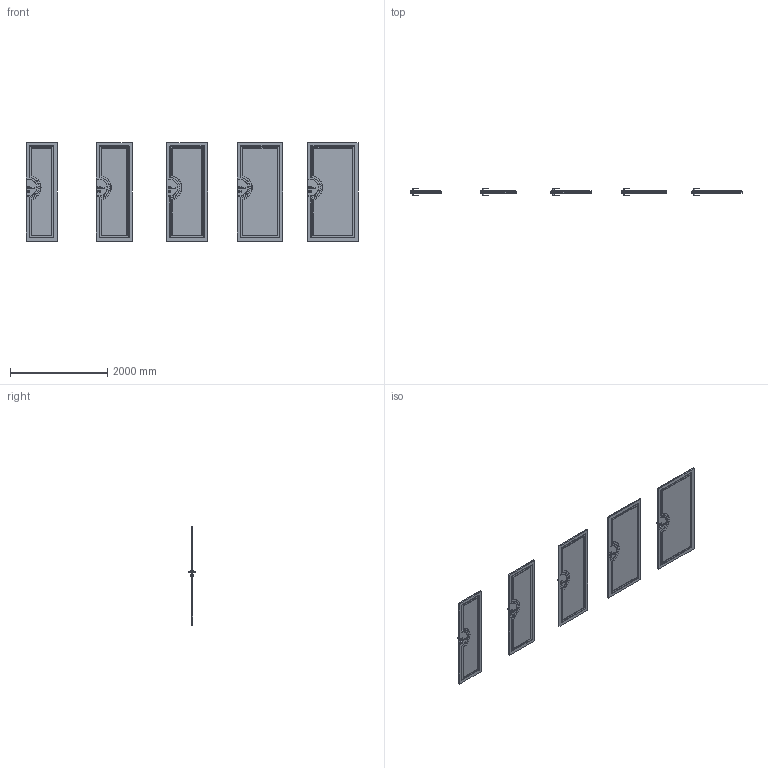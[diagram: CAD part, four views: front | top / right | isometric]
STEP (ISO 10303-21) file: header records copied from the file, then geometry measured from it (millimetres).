
FILE_DESCRIPTION(/* description */ (''),/* implementation_level */ '2;1');
FILE_NAME(/* name */ '049913_A_3-Skrzydło ART DECO model 5_ polska norma _PN__ odwrotna przylga.stp',/* time_stamp */ '2024-09-16T13:37:16+02:00',/* author */ (''),/* organization */ (''),/* preprocessor_version */ 'ST-DEVELOPER v16',/* originating_system */ 'SIEMENS PLM Software NX 11.0',/* authorisation */ '');
FILE_SCHEMA (('AUTOMOTIVE_DESIGN { 1 0 10303 214 3 1 1 1 }'));
Products named in the file (1): msmo2660026Awbp0
Bounding box: 6839 x 153.13 x 2027 mm (x, y, z)
Volume: 331311576.8 mm3; surface area: 18441604.7 mm2
Topology: 25 solids, 25 shells, 2210 faces, 5120 edges, 2900 vertices
Faces by surface type: cylinder 700, plane 670, bspline 280, torus 240, cone 180, sphere 140
Entity records: 68159 total; most frequent: CARTESIAN_POINT 19271, DIRECTION 10542, ORIENTED_EDGE 9960, EDGE_CURVE 4980, AXIS2_PLACEMENT_3D 4051, VERTEX_POINT 2900, LINE 2440, VECTOR 2440
